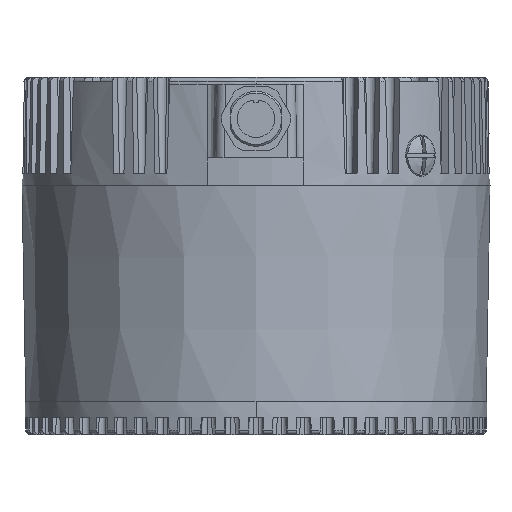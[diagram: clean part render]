
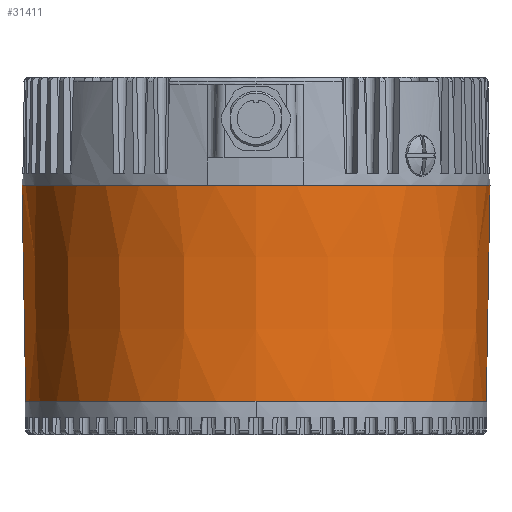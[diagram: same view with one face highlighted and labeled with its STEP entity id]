
A CAD part, front view. The second image highlights one B-rep face of the part: STEP entity #31411.
In plain terms, the highlighted conical face has half-angle 1 degrees and reference radius 50.59 mm.
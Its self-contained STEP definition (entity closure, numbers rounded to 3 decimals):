
#31360=CARTESIAN_POINT('',(0.,0.,56.8));
#31361=DIRECTION('',(0.,0.,1.));
#31362=DIRECTION('',(-1.,0.,0.));
#31363=AXIS2_PLACEMENT_3D('',#31360,#31361,#31362);
#31365=DIRECTION('',(-0.017,0.,-1.));
#31366=VECTOR('',#31365,47.007);
#31367=CARTESIAN_POINT('',(51.,0.,56.8));
#31368=LINE('',#31367,#31366);
#31369=CARTESIAN_POINT('',(0.,0.,9.8));
#31370=DIRECTION('',(0.,0.,-1.));
#31371=DIRECTION('',(1.,0.,0.));
#31372=AXIS2_PLACEMENT_3D('',#31369,#31370,#31371);
#31374=DIRECTION('',(0.017,0.,-1.));
#31375=VECTOR('',#31374,47.007);
#31376=CARTESIAN_POINT('',(-51.,0.,56.8));
#31377=LINE('',#31376,#31375);
#31388=CARTESIAN_POINT('',(51.,0.,56.8));
#31389=CARTESIAN_POINT('',(-51.,0.,56.8));
#31390=VERTEX_POINT('',#31388);
#31391=VERTEX_POINT('',#31389);
#31392=CARTESIAN_POINT('',(-50.18,0.,9.8));
#31393=VERTEX_POINT('',#31392);
#31394=CARTESIAN_POINT('',(50.18,0.,9.8));
#31395=VERTEX_POINT('',#31394);
#31396=CARTESIAN_POINT('',(0.,0.,33.3));
#31397=DIRECTION('',(0.,0.,1.));
#31398=DIRECTION('',(-1.,0.,0.));
#31399=AXIS2_PLACEMENT_3D('',#31396,#31397,#31398);
#31400=CONICAL_SURFACE('',#31399,50.59,1.);
#31402=ORIENTED_EDGE('',*,*,#31401,.F.);
#31404=ORIENTED_EDGE('',*,*,#31403,.T.);
#31406=ORIENTED_EDGE('',*,*,#31405,.T.);
#31408=ORIENTED_EDGE('',*,*,#31407,.T.);
#31409=EDGE_LOOP('',(#31402,#31404,#31406,#31408));
#31410=FACE_OUTER_BOUND('',#31409,.F.);
#31364=CIRCLE('',#31363,51.);
#31373=CIRCLE('',#31372,50.18);
#31401=EDGE_CURVE('',#31391,#31393,#31377,.T.);
#31403=EDGE_CURVE('',#31391,#31390,#31364,.T.);
#31405=EDGE_CURVE('',#31390,#31395,#31368,.T.);
#31407=EDGE_CURVE('',#31395,#31393,#31373,.T.);
#31411=ADVANCED_FACE('',(#31410),#31400,.T.);
